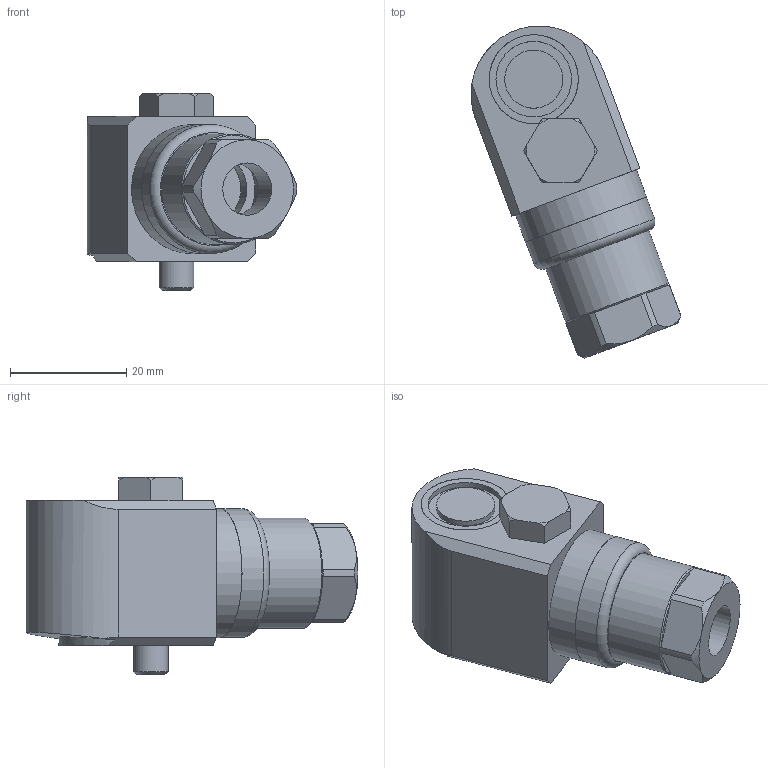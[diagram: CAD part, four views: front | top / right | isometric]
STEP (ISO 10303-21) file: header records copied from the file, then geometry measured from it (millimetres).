
FILE_DESCRIPTION(/* description */ (''),/* implementation_level */ '2;1');
FILE_NAME(/* name */ 'Z:\Engineering\Drawings\3D Library\Assemblies\Website\Premium Side\Compact\HS-170 Side Silicon\HS-170SXXX0706.stp',/* time_stamp */ '2023-03-21T15:45:32+00:00',/* author */ ('Ricardo.Peneda'),/* organization */ (''),/* preprocessor_version */ 'ST-DEVELOPER v18.1',/* originating_system */ 'Autodesk Inventor 2021',/* authorisation */ '');
FILE_SCHEMA (('AUTOMOTIVE_DESIGN { 1 0 10303 214 3 1 1 }'));
Length unit declared in the file: inch
Products named in the file (1): HS-170SXXX0706_Shrinkwrap_1
Bounding box: 36.11 x 57.11 x 34 mm (x, y, z)
Volume: 15724.2 mm3; surface area: 10994.4 mm2
Topology: 5 solids, 5 shells, 94 faces, 233 edges, 165 vertices
Faces by surface type: plane 47, cylinder 30, cone 16, torus 1
Full cylindrical faces by diameter (mm): 2.5 x1, 4.5 x1, 6 x2, 7 x1, 9 x1, 10 x1, 12 x2, 13 x1, 14 x1, 14.9 x1, 15 x2, 15.34 x1, 15.35 x1, 18 x1, 19 x1, 19.95 x1, 20 x1, 22.2 x2
Entity records: 3053 total; most frequent: CARTESIAN_POINT 570, DIRECTION 522, ORIENTED_EDGE 466, EDGE_CURVE 233, AXIS2_PLACEMENT_3D 220, VERTEX_POINT 165, EDGE_LOOP 118, CIRCLE 114
